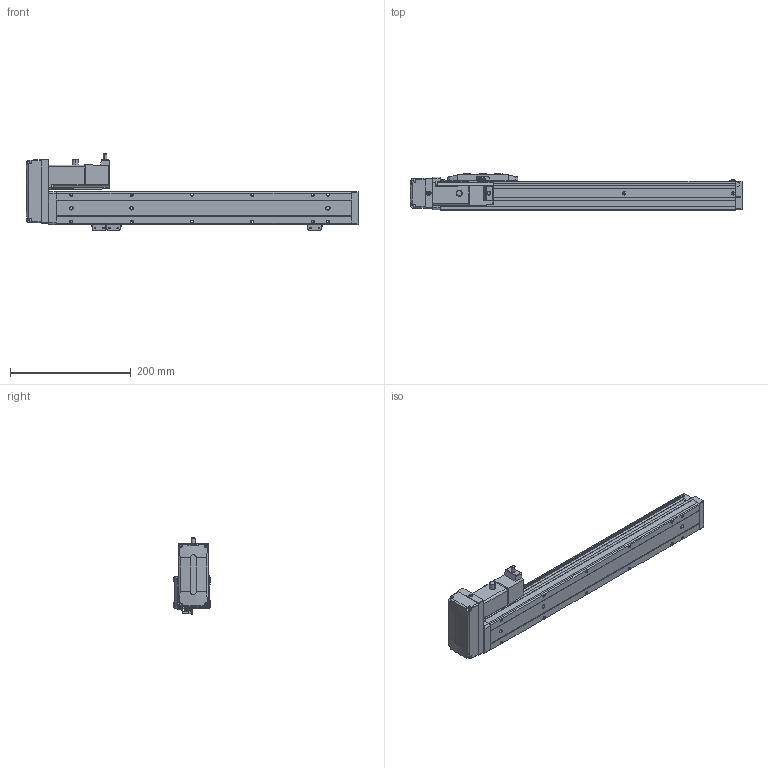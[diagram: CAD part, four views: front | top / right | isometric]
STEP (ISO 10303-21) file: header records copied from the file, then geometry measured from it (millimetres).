
FILE_DESCRIPTION (( 'STEP AP203' ), '1' );
FILE_NAME ('CTH5-L10-S350-BL-C10(¼ò).STEP', '2023-02-04T02:16:06', ( '' ), ( '' ), 'SwSTEP 2.0', 'SolidWorks 2018', '' );
FILE_SCHEMA (( 'CONFIG_CONTROL_DESIGN' ));
Length unit declared in the file: millimetre
Products named in the file (21): CTH嫖萇羲壽假蚾啣; CTH5耜蚾蟀諉啣(潠); T10-p1; CTH5覜茼え; CTH5耜晚蹟隊; CTH5菁釱-L490; CTH5-L10-S350-BL-C10(潠); CTH5耜蚾欶; CTH100W假蚾啣; 内六角圆柱头螺钉M3-2; CTH5賑怢-2; PM-Y45; 嫖萇羲壽郪磁1; 100W萇儂; CTH5耜晚蹟隊-1; CTH5-BL-T10_body5; 葩璃 蚾饜极13^CTH8-L10-S50-BM-C40(潠)1; M3｡｣; CTH5ヶ耜啣(潠); CTH5綴耜啣; hex nuts, style 1-grades ab gb_GB_FASTENER_NUT_SNAB1 M3-N
Assembly tree (35 placements, depth 3):
  CTH5-L10-S350-BL-C10(潠)
    CTH5綴耜啣
    CTH5賑怢-2
    CTH5ヶ耜啣(潠)
    CTH5菁釱-L490
    CTH5耜晚蹟隊  x2
    CTH5覜茼え
    CTH5耜晚蹟隊-1  x3
    CTH5耜蚾蟀諉啣(潠)
    CTH5耜蚾欶
      CTH5-BL-T10_body5
    100W萇儂
      T10-p1
    CTH100W假蚾啣
    葩璃 蚾饜极13^CTH8-L10-S50-BM-C40(潠)1  x2
      CTH嫖萇羲壽假蚾啣
      PM-Y45
      内六角圆柱头螺钉M3-2
      M3｡｣
      hex nuts, style 1-grades ab gb_GB_FASTENER_NUT_SNAB1 M3-N
    嫖萇羲壽郪磁1
      CTH嫖萇羲壽假蚾啣
      PM-Y45
      M3｡｣  x2
      内六角圆柱头螺钉M3-2  x2
      hex nuts, style 1-grades ab gb_GB_FASTENER_NUT_SNAB1 M3-N  x2
Bounding box: 550 x 60 x 126.31 mm (x, y, z)
Volume: 1454910.6 mm3; surface area: 221677.9 mm2
Topology: 38 solids, 38 shells, 1584 faces, 3975 edges, 2568 vertices
Faces by surface type: plane 881, cylinder 464, cone 183, torus 38, bspline 18
Entity records: 36924 total; most frequent: CARTESIAN_POINT 6861, DIRECTION 5837, ORIENTED_EDGE 5622, EDGE_CURVE 2811, AXIS2_PLACEMENT_3D 2003, VECTOR 1831, LINE 1831, VERTEX_POINT 1812
